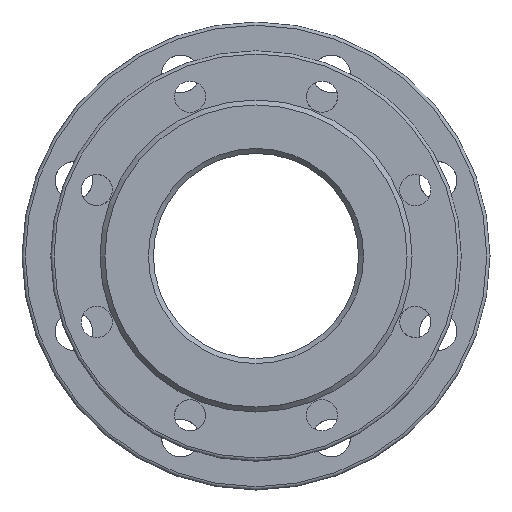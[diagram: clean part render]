
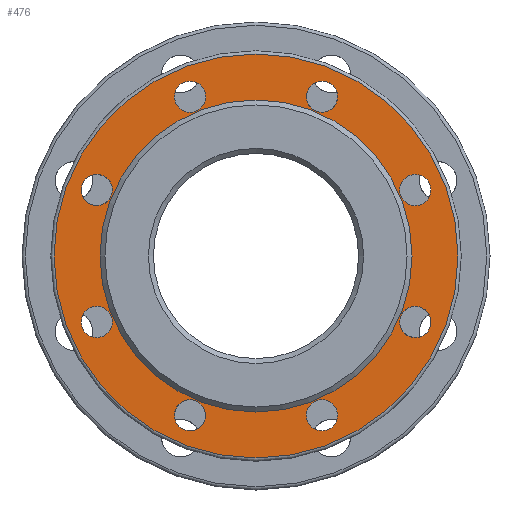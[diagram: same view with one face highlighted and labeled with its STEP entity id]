
A CAD part, left-side view. The second image highlights one B-rep face of the part: STEP entity #476.
In plain terms, the highlighted planar face has unit normal (-1, 0, 0).
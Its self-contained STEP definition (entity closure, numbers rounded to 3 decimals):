
#2 = CARTESIAN_POINT ( 'NONE',  ( 3., 97.007, 40.182 ) ) ;
#13 = DIRECTION ( 'NONE',  ( 1., 0., 0. ) ) ;
#50 = DIRECTION ( 'NONE',  ( -1., 0., 0. ) ) ;
#91 = EDGE_CURVE ( 'NONE', #1333, #1333, #1550, .T. ) ;
#119 = FACE_OUTER_BOUND ( 'NONE', #1687, .T. ) ;
#132 = DIRECTION ( 'NONE',  ( 0., 0.707, -0.707 ) ) ;
#156 = CARTESIAN_POINT ( 'NONE',  ( 3., -97.007, 40.182 ) ) ;
#157 = AXIS2_PLACEMENT_3D ( 'NONE', #772, #1353, #579 ) ;
#198 = FACE_BOUND ( 'NONE', #1090, .T. ) ;
#212 = CARTESIAN_POINT ( 'NONE',  ( 3., 0., 0. ) ) ;
#224 = DIRECTION ( 'NONE',  ( 0., -0.707, -0.707 ) ) ;
#293 = ORIENTED_EDGE ( 'NONE', *, *, #2336, .F. ) ;
#337 = VERTEX_POINT ( 'NONE', #1108 ) ;
#364 = ORIENTED_EDGE ( 'NONE', *, *, #536, .F. ) ;
#386 = EDGE_CURVE ( 'NONE', #1121, #1121, #2191, .T. ) ;
#392 = PLANE ( 'NONE',  #1252 ) ;
#397 = VERTEX_POINT ( 'NONE', #1401 ) ;
#415 = EDGE_LOOP ( 'NONE', ( #364 ) ) ;
#432 = FACE_BOUND ( 'NONE', #618, .T. ) ;
#470 = CARTESIAN_POINT ( 'NONE',  ( 3., -40.182, -97.007 ) ) ;
#476 = ADVANCED_FACE ( 'NONE', ( #119, #1230, #1016, #1823, #198, #2447, #2415, #2000, #432, #1600 ), #392, .F. ) ;
#499 = AXIS2_PLACEMENT_3D ( 'NONE', #2014, #2280, #840 ) ;
#533 = ORIENTED_EDGE ( 'NONE', *, *, #386, .F. ) ;
#536 = EDGE_CURVE ( 'NONE', #337, #337, #1004, .T. ) ;
#543 = EDGE_CURVE ( 'NONE', #1308, #1308, #2446, .T. ) ;
#551 = CARTESIAN_POINT ( 'NONE',  ( 3., -103.725, -46.899 ) ) ;
#579 = DIRECTION ( 'NONE',  ( 0., 1., 0. ) ) ;
#590 = CARTESIAN_POINT ( 'NONE',  ( 3., 0., -123. ) ) ;
#608 = CARTESIAN_POINT ( 'NONE',  ( 3., 95., 0. ) ) ;
#618 = EDGE_LOOP ( 'NONE', ( #2111 ) ) ;
#625 = AXIS2_PLACEMENT_3D ( 'NONE', #1409, #1603, #224 ) ;
#655 = DIRECTION ( 'NONE',  ( 0., 0., -1. ) ) ;
#688 = ORIENTED_EDGE ( 'NONE', *, *, #91, .F. ) ;
#690 = CARTESIAN_POINT ( 'NONE',  ( 3., 0., 95. ) ) ;
#726 = CARTESIAN_POINT ( 'NONE',  ( 3., -40.182, -106.507 ) ) ;
#733 = DIRECTION ( 'NONE',  ( -1., 0., 0. ) ) ;
#763 = DIRECTION ( 'NONE',  ( 0., -1., 0. ) ) ;
#772 = CARTESIAN_POINT ( 'NONE',  ( 3., 97.007, -40.182 ) ) ;
#797 = DIRECTION ( 'NONE',  ( -1., 0., 0. ) ) ;
#809 = DIRECTION ( 'NONE',  ( -1., 0., 0. ) ) ;
#827 = CIRCLE ( 'NONE', #1596, 123. ) ;
#840 = DIRECTION ( 'NONE',  ( 0., 0., 1. ) ) ;
#864 = AXIS2_PLACEMENT_3D ( 'NONE', #156, #2335, #763 ) ;
#950 = AXIS2_PLACEMENT_3D ( 'NONE', #1904, #2080, #2509 ) ;
#1004 = CIRCLE ( 'NONE', #1293, 9.5 ) ;
#1008 = CARTESIAN_POINT ( 'NONE',  ( 3., -106.507, 40.182 ) ) ;
#1016 = FACE_BOUND ( 'NONE', #2494, .T. ) ;
#1090 = EDGE_LOOP ( 'NONE', ( #1824 ) ) ;
#1108 = CARTESIAN_POINT ( 'NONE',  ( 3., 103.725, 46.899 ) ) ;
#1121 = VERTEX_POINT ( 'NONE', #2123 ) ;
#1207 = AXIS2_PLACEMENT_3D ( 'NONE', #470, #50, #655 ) ;
#1227 = DIRECTION ( 'NONE',  ( -1., 0., 0. ) ) ;
#1230 = FACE_BOUND ( 'NONE', #2355, .T. ) ;
#1238 = EDGE_CURVE ( 'NONE', #2320, #2320, #1770, .T. ) ;
#1252 = AXIS2_PLACEMENT_3D ( 'NONE', #608, #13, #1811 ) ;
#1293 = AXIS2_PLACEMENT_3D ( 'NONE', #2, #797, #1406 ) ;
#1308 = VERTEX_POINT ( 'NONE', #690 ) ;
#1333 = VERTEX_POINT ( 'NONE', #551 ) ;
#1353 = DIRECTION ( 'NONE',  ( -1., 0., 0. ) ) ;
#1360 = EDGE_CURVE ( 'NONE', #2174, #2174, #827, .T. ) ;
#1378 = ORIENTED_EDGE ( 'NONE', *, *, #2239, .F. ) ;
#1401 = CARTESIAN_POINT ( 'NONE',  ( 3., -46.899, 103.725 ) ) ;
#1406 = DIRECTION ( 'NONE',  ( 0., 0.707, 0.707 ) ) ;
#1409 = CARTESIAN_POINT ( 'NONE',  ( 3., -97.007, -40.182 ) ) ;
#1418 = CARTESIAN_POINT ( 'NONE',  ( 3., 0., 0. ) ) ;
#1449 = EDGE_LOOP ( 'NONE', ( #688 ) ) ;
#1478 = DIRECTION ( 'NONE',  ( 0., 0., -1. ) ) ;
#1530 = CARTESIAN_POINT ( 'NONE',  ( 3., 40.182, -97.007 ) ) ;
#1550 = CIRCLE ( 'NONE', #625, 9.5 ) ;
#1588 = VERTEX_POINT ( 'NONE', #1008 ) ;
#1596 = AXIS2_PLACEMENT_3D ( 'NONE', #1418, #1227, #1478 ) ;
#1600 = FACE_BOUND ( 'NONE', #2131, .T. ) ;
#1603 = DIRECTION ( 'NONE',  ( -1., 0., 0. ) ) ;
#1622 = DIRECTION ( 'NONE',  ( 0., 0., 1. ) ) ;
#1687 = EDGE_LOOP ( 'NONE', ( #2061 ) ) ;
#1691 = EDGE_LOOP ( 'NONE', ( #2165 ) ) ;
#1736 = EDGE_CURVE ( 'NONE', #2189, #2189, #2600, .T. ) ;
#1770 = CIRCLE ( 'NONE', #1207, 9.5 ) ;
#1811 = DIRECTION ( 'NONE',  ( 0., 0., -1. ) ) ;
#1818 = CARTESIAN_POINT ( 'NONE',  ( 3., 106.507, -40.182 ) ) ;
#1823 = FACE_BOUND ( 'NONE', #1449, .T. ) ;
#1824 = ORIENTED_EDGE ( 'NONE', *, *, #1238, .F. ) ;
#1904 = CARTESIAN_POINT ( 'NONE',  ( 3., -40.182, 97.007 ) ) ;
#1934 = AXIS2_PLACEMENT_3D ( 'NONE', #1530, #733, #132 ) ;
#1978 = VERTEX_POINT ( 'NONE', #1818 ) ;
#2000 = FACE_BOUND ( 'NONE', #415, .T. ) ;
#2014 = CARTESIAN_POINT ( 'NONE',  ( 3., 40.182, 97.007 ) ) ;
#2025 = AXIS2_PLACEMENT_3D ( 'NONE', #212, #809, #1622 ) ;
#2061 = ORIENTED_EDGE ( 'NONE', *, *, #1360, .T. ) ;
#2080 = DIRECTION ( 'NONE',  ( -1., 0., 0. ) ) ;
#2098 = CIRCLE ( 'NONE', #157, 9.5 ) ;
#2111 = ORIENTED_EDGE ( 'NONE', *, *, #1736, .F. ) ;
#2123 = CARTESIAN_POINT ( 'NONE',  ( 3., 46.899, -103.725 ) ) ;
#2131 = EDGE_LOOP ( 'NONE', ( #2576 ) ) ;
#2165 = ORIENTED_EDGE ( 'NONE', *, *, #2430, .F. ) ;
#2174 = VERTEX_POINT ( 'NONE', #590 ) ;
#2189 = VERTEX_POINT ( 'NONE', #2380 ) ;
#2191 = CIRCLE ( 'NONE', #1934, 9.5 ) ;
#2239 = EDGE_CURVE ( 'NONE', #397, #397, #2560, .T. ) ;
#2280 = DIRECTION ( 'NONE',  ( -1., 0., 0. ) ) ;
#2320 = VERTEX_POINT ( 'NONE', #726 ) ;
#2335 = DIRECTION ( 'NONE',  ( -1., 0., 0. ) ) ;
#2336 = EDGE_CURVE ( 'NONE', #1588, #1588, #2603, .T. ) ;
#2355 = EDGE_LOOP ( 'NONE', ( #1378 ) ) ;
#2380 = CARTESIAN_POINT ( 'NONE',  ( 3., 40.182, 106.507 ) ) ;
#2415 = FACE_BOUND ( 'NONE', #1691, .T. ) ;
#2430 = EDGE_CURVE ( 'NONE', #1978, #1978, #2098, .T. ) ;
#2446 = CIRCLE ( 'NONE', #2025, 95. ) ;
#2447 = FACE_BOUND ( 'NONE', #2495, .T. ) ;
#2494 = EDGE_LOOP ( 'NONE', ( #293 ) ) ;
#2495 = EDGE_LOOP ( 'NONE', ( #533 ) ) ;
#2509 = DIRECTION ( 'NONE',  ( 0., -0.707, 0.707 ) ) ;
#2560 = CIRCLE ( 'NONE', #950, 9.5 ) ;
#2576 = ORIENTED_EDGE ( 'NONE', *, *, #543, .F. ) ;
#2600 = CIRCLE ( 'NONE', #499, 9.5 ) ;
#2603 = CIRCLE ( 'NONE', #864, 9.5 ) ;
